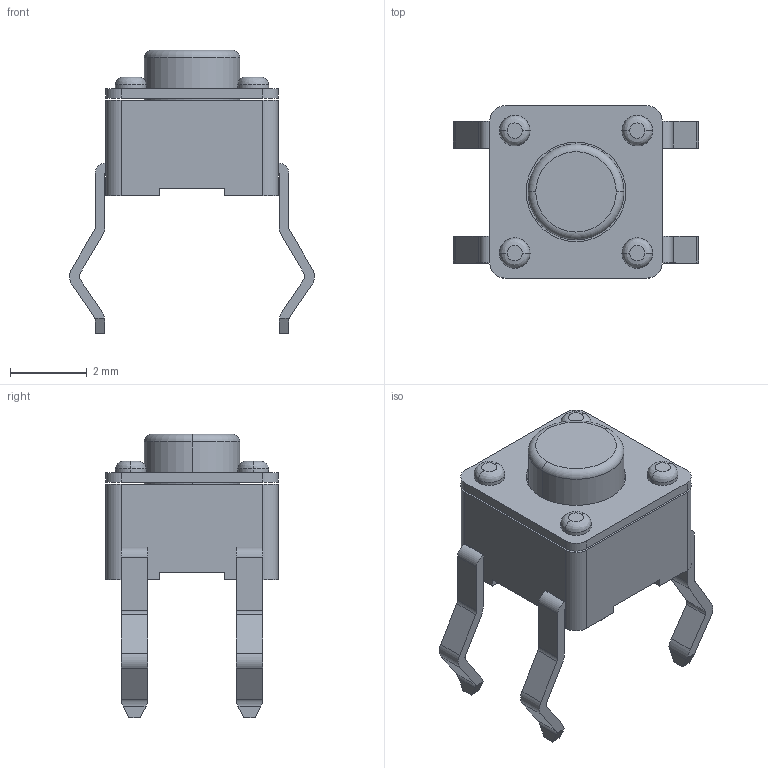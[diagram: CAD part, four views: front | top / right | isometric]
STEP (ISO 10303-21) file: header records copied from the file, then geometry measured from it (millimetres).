
FILE_DESCRIPTION((''),'2;1');
FILE_NAME('95','2021-09-09T21:46:37',('Administrator'),(''),'CREO PARAMETRIC BY PTC INC, 2016510','CREO PARAMETRIC BY PTC INC, 2016510','');
FILE_SCHEMA(('CONFIG_CONTROL_DESIGN','GEOMETRIC_VALIDATION_PROPERTIES_MIM'));
Length unit declared in the file: millimetre
Products named in the file (1): 95
Bounding box: 6.4 x 4.5 x 7.4 mm (x, y, z)
Volume: 60.7 mm3; surface area: 171.2 mm2
Topology: 2 solids, 2 shells, 268 faces, 729 edges, 480 vertices
Faces by surface type: plane 206, cylinder 52, bspline 8, torus 2
Entity records: 10541 total; most frequent: CARTESIAN_POINT 1719, ORIENTED_EDGE 1458, DIRECTION 1357, EDGE_CURVE 729, VECTOR 589, LINE 589, VERTEX_POINT 480, AXIS2_PLACEMENT_3D 384
